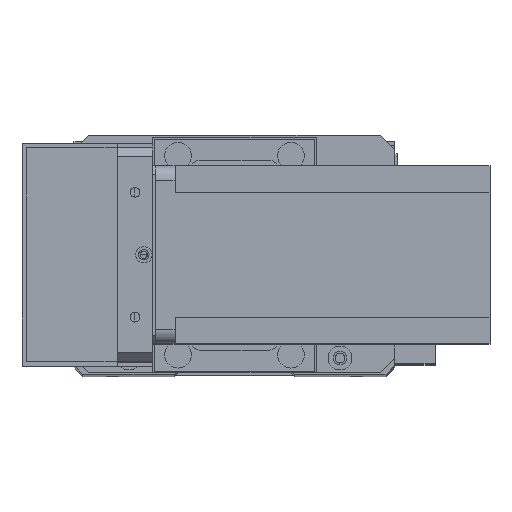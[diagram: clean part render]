
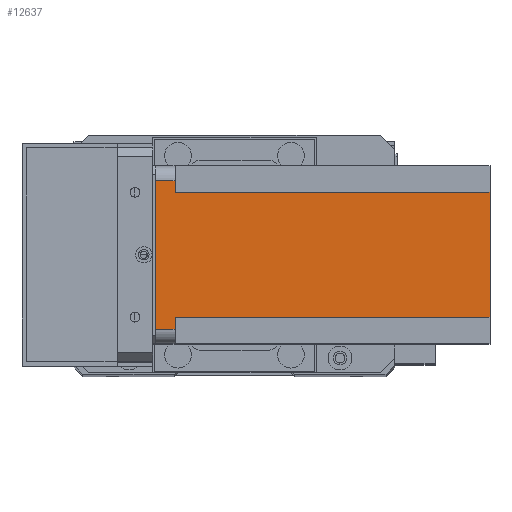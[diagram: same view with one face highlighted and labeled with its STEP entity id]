
A CAD part, top view. The second image highlights one B-rep face of the part: STEP entity #12637.
In plain terms, the highlighted planar face has unit normal (0, 0, 1) as drawn and (1, 0, 0) by its records, which use the part's own axes.
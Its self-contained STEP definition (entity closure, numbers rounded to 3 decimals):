
#142 = DIRECTION ( 'NONE',  ( 0., 0., 1. ) ) ;
#282 = ORIENTED_EDGE ( 'NONE', *, *, #18574, .F. ) ;
#1623 = CARTESIAN_POINT ( 'NONE',  ( 60., 55., -112.5 ) ) ;
#2731 = ORIENTED_EDGE ( 'NONE', *, *, #14665, .T. ) ;
#2761 = VECTOR ( 'NONE', #21725, 1000. ) ;
#2920 = LINE ( 'NONE', #28181, #13961 ) ;
#3463 = LINE ( 'NONE', #23177, #27656 ) ;
#3635 = ORIENTED_EDGE ( 'NONE', *, *, #26547, .T. ) ;
#3899 = DIRECTION ( 'NONE',  ( 0., 0., -1. ) ) ;
#3930 = DIRECTION ( 'NONE',  ( 0., 1., 0. ) ) ;
#3995 = DIRECTION ( 'NONE',  ( 0., 0., 1. ) ) ;
#4975 = ORIENTED_EDGE ( 'NONE', *, *, #9632, .F. ) ;
#5806 = CARTESIAN_POINT ( 'NONE',  ( 60., 51., -6.5 ) ) ;
#6049 = LINE ( 'NONE', #20331, #24764 ) ;
#6485 = DIRECTION ( 'NONE',  ( 0., 1., 0. ) ) ;
#8433 = VECTOR ( 'NONE', #11839, 1000. ) ;
#8549 = FACE_OUTER_BOUND ( 'NONE', #21781, .T. ) ;
#9632 = EDGE_CURVE ( 'NONE', #17953, #13805, #14386, .T. ) ;
#10755 = CARTESIAN_POINT ( 'NONE',  ( 60., 60., -6.5 ) ) ;
#11118 = EDGE_CURVE ( 'NONE', #21967, #28538, #3463, .T. ) ;
#11533 = EDGE_CURVE ( 'NONE', #13805, #13797, #6049, .T. ) ;
#11763 = CARTESIAN_POINT ( 'NONE',  ( 60., 5., 0. ) ) ;
#11839 = DIRECTION ( 'NONE',  ( 0., 0., -1. ) ) ;
#11909 = EDGE_CURVE ( 'NONE', #16562, #13797, #27662, .T. ) ;
#11938 = CARTESIAN_POINT ( 'NONE',  ( 60., 5., -112.5 ) ) ;
#12200 = VERTEX_POINT ( 'NONE', #11763 ) ;
#12637 = ADVANCED_FACE ( 'NONE', ( #8549 ), #29585, .T. ) ;
#12894 = VECTOR ( 'NONE', #29353, 1000. ) ;
#13369 = ORIENTED_EDGE ( 'NONE', *, *, #11118, .F. ) ;
#13797 = VERTEX_POINT ( 'NONE', #26712 ) ;
#13805 = VERTEX_POINT ( 'NONE', #5806 ) ;
#13907 = DIRECTION ( 'NONE',  ( 0., -1., 0. ) ) ;
#13961 = VECTOR ( 'NONE', #142, 1000. ) ;
#14000 = LINE ( 'NONE', #11938, #8433 ) ;
#14386 = LINE ( 'NONE', #10755, #12894 ) ;
#14665 = EDGE_CURVE ( 'NONE', #12200, #28538, #14000, .T. ) ;
#14838 = CARTESIAN_POINT ( 'NONE',  ( 60., 9., -112.5 ) ) ;
#15201 = VECTOR ( 'NONE', #3995, 1000. ) ;
#15638 = CARTESIAN_POINT ( 'NONE',  ( 60., 0., -112.5 ) ) ;
#16305 = ORIENTED_EDGE ( 'NONE', *, *, #11533, .F. ) ;
#16562 = VERTEX_POINT ( 'NONE', #14838 ) ;
#16998 = EDGE_CURVE ( 'NONE', #16562, #21967, #2920, .T. ) ;
#17756 = CARTESIAN_POINT ( 'NONE',  ( 60., 55., 0. ) ) ;
#17771 = VERTEX_POINT ( 'NONE', #17756 ) ;
#17953 = VERTEX_POINT ( 'NONE', #18376 ) ;
#18014 = DIRECTION ( 'NONE',  ( 1., 0., 0. ) ) ;
#18376 = CARTESIAN_POINT ( 'NONE',  ( 60., 55., -6.5 ) ) ;
#18574 = EDGE_CURVE ( 'NONE', #12200, #17771, #28082, .T. ) ;
#20331 = CARTESIAN_POINT ( 'NONE',  ( 60., 51., -112.5 ) ) ;
#21725 = DIRECTION ( 'NONE',  ( 0., 1., 0. ) ) ;
#21781 = EDGE_LOOP ( 'NONE', ( #4975, #3635, #282, #2731, #13369, #24906, #23404, #16305 ) ) ;
#21881 = VECTOR ( 'NONE', #6485, 1000. ) ;
#21967 = VERTEX_POINT ( 'NONE', #26630 ) ;
#22881 = LINE ( 'NONE', #1623, #15201 ) ;
#22898 = CARTESIAN_POINT ( 'NONE',  ( 60., 0., 0. ) ) ;
#23177 = CARTESIAN_POINT ( 'NONE',  ( 60., 0., -6.5 ) ) ;
#23404 = ORIENTED_EDGE ( 'NONE', *, *, #11909, .T. ) ;
#23477 = AXIS2_PLACEMENT_3D ( 'NONE', #15638, #18014, #3930 ) ;
#24066 = CARTESIAN_POINT ( 'NONE',  ( 60., 0., -112.5 ) ) ;
#24764 = VECTOR ( 'NONE', #3899, 1000. ) ;
#24906 = ORIENTED_EDGE ( 'NONE', *, *, #16998, .F. ) ;
#26547 = EDGE_CURVE ( 'NONE', #17953, #17771, #22881, .T. ) ;
#26630 = CARTESIAN_POINT ( 'NONE',  ( 60., 9., -6.5 ) ) ;
#26712 = CARTESIAN_POINT ( 'NONE',  ( 60., 51., -112.5 ) ) ;
#27656 = VECTOR ( 'NONE', #13907, 1000. ) ;
#27662 = LINE ( 'NONE', #24066, #2761 ) ;
#28082 = LINE ( 'NONE', #22898, #21881 ) ;
#28181 = CARTESIAN_POINT ( 'NONE',  ( 60., 9., -112.5 ) ) ;
#28538 = VERTEX_POINT ( 'NONE', #29120 ) ;
#29120 = CARTESIAN_POINT ( 'NONE',  ( 60., 5., -6.5 ) ) ;
#29353 = DIRECTION ( 'NONE',  ( 0., -1., 0. ) ) ;
#29585 = PLANE ( 'NONE',  #23477 ) ;
